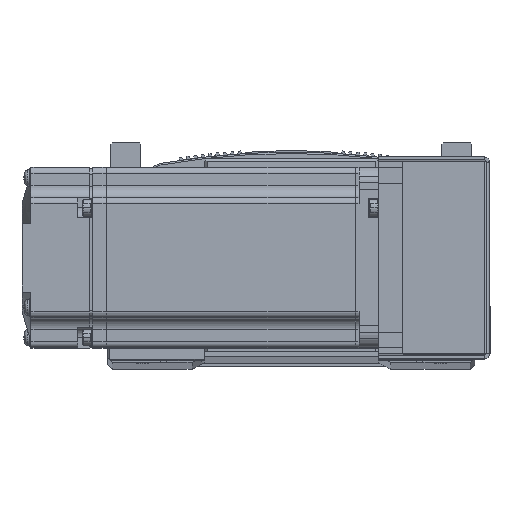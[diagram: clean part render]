
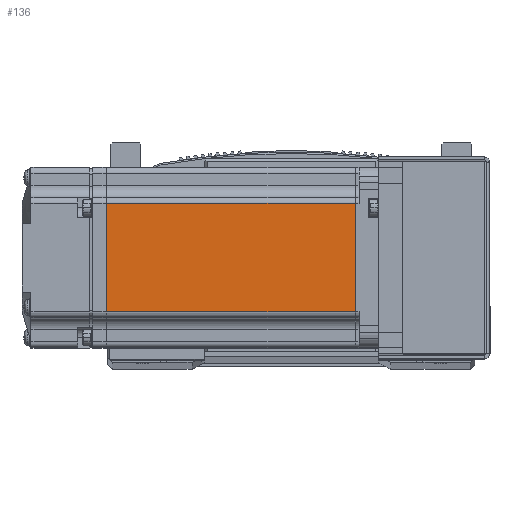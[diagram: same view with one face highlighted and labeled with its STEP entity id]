
A CAD part, top view. The second image highlights one B-rep face of the part: STEP entity #136.
In plain terms, the highlighted planar face has unit normal (0, 0, 1) as drawn and (0, 1, 0) by its records, which use the part's own axes.
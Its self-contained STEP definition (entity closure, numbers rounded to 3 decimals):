
#136 = ADVANCED_FACE ( 'NONE', ( #44380 ), #4328, .T. ) ;
#1371 = ORIENTED_EDGE ( 'NONE', *, *, #45005, .T. ) ;
#1394 = ORIENTED_EDGE ( 'NONE', *, *, #59774, .F. ) ;
#1419 = ORIENTED_EDGE ( 'NONE', *, *, #59769, .T. ) ;
#1437 = ORIENTED_EDGE ( 'NONE', *, *, #59800, .T. ) ;
#4289 = DIRECTION ( 'NONE',  ( 0., 0., 1. ) ) ;
#4328 = PLANE ( 'NONE',  #14381 ) ;
#4330 = CARTESIAN_POINT ( 'NONE',  ( -6.5, 30., 25. ) ) ;
#4336 = DIRECTION ( 'NONE',  ( 0., 1., 0. ) ) ;
#6240 = EDGE_LOOP ( 'NONE', ( #1394, #1437, #1371, #1419 ) ) ;
#13110 = VECTOR ( 'NONE', #44873, 1000. ) ;
#13130 = VECTOR ( 'NONE', #44962, 1000. ) ;
#13131 = VECTOR ( 'NONE', #44726, 1000. ) ;
#13158 = LINE ( 'NONE', #44514, #13110 ) ;
#13163 = LINE ( 'NONE', #44793, #13131 ) ;
#13166 = LINE ( 'NONE', #44884, #13130 ) ;
#14381 = AXIS2_PLACEMENT_3D ( 'NONE', #4330, #4336, #4289 ) ;
#27510 = LINE ( 'NONE', #52254, #27545 ) ;
#27545 = VECTOR ( 'NONE', #52256, 1000. ) ;
#44380 = FACE_OUTER_BOUND ( 'NONE', #6240, .T. ) ;
#44514 = CARTESIAN_POINT ( 'NONE',  ( -7.75, 30., 0. ) ) ;
#44726 = DIRECTION ( 'NONE',  ( 1., 0., 0. ) ) ;
#44793 = CARTESIAN_POINT ( 'NONE',  ( -6.5, 30., 18. ) ) ;
#44873 = DIRECTION ( 'NONE',  ( 0., 0., 1. ) ) ;
#44884 = CARTESIAN_POINT ( 'NONE',  ( -6.5, 30., -18. ) ) ;
#44962 = DIRECTION ( 'NONE',  ( -1., 0., 0. ) ) ;
#45005 = EDGE_CURVE ( 'NONE', #80472, #80442, #27510, .T. ) ;
#52254 = CARTESIAN_POINT ( 'NONE',  ( -90.45, 30., 0. ) ) ;
#52256 = DIRECTION ( 'NONE',  ( 0., 0., 1. ) ) ;
#59769 = EDGE_CURVE ( 'NONE', #80442, #80565, #13163, .T. ) ;
#59774 = EDGE_CURVE ( 'NONE', #80568, #80565, #13158, .T. ) ;
#59800 = EDGE_CURVE ( 'NONE', #80568, #80472, #13166, .T. ) ;
#80442 = VERTEX_POINT ( 'NONE', #89697 ) ;
#80472 = VERTEX_POINT ( 'NONE', #89720 ) ;
#80565 = VERTEX_POINT ( 'NONE', #89809 ) ;
#80568 = VERTEX_POINT ( 'NONE', #89789 ) ;
#89697 = CARTESIAN_POINT ( 'NONE',  ( -90.45, 30., 18. ) ) ;
#89720 = CARTESIAN_POINT ( 'NONE',  ( -90.45, 30., -18. ) ) ;
#89789 = CARTESIAN_POINT ( 'NONE',  ( -7.75, 30., -18. ) ) ;
#89809 = CARTESIAN_POINT ( 'NONE',  ( -7.75, 30., 18. ) ) ;
